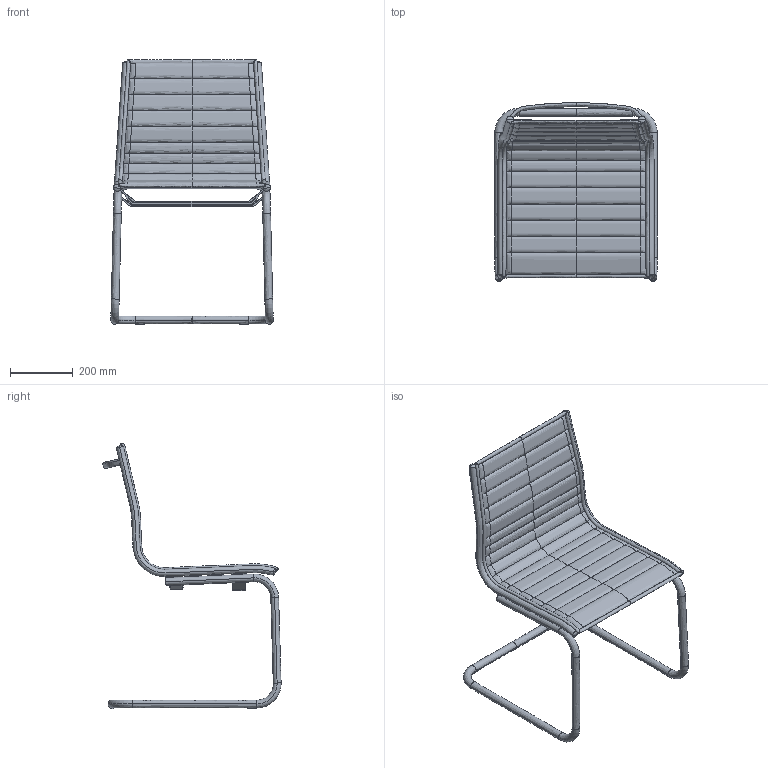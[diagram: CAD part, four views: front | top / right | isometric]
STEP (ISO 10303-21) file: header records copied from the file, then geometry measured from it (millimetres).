
FILE_DESCRIPTION(/* description */ (''),/* implementation_level */ '2;1');
FILE_NAME(/* name */ 'FLY724~1',/* time_stamp */ '2017-10-19T14:58:35+02:00',/* author */ (''),/* organization */ (''),/* preprocessor_version */ 'ST-DEVELOPER v15',/* originating_system */ '',/* authorisation */ '');
FILE_SCHEMA (('CONFIG_CONTROL_DESIGN'));
Length unit declared in the file: millimetre
Products named in the file (1): Document
Bounding box: 518.97 x 569.59 x 848.44 mm (x, y, z)
Volume: 1305122.3 mm3; surface area: 1415809.3 mm2
Topology: 13 solids, 18 shells, 260 faces, 613 edges, 376 vertices
Faces by surface type: bspline 198, plane 62
Entity records: 21490 total; most frequent: CARTESIAN_POINT 17818, ORIENTED_EDGE 1142, EDGE_CURVE 602, VERTEX_POINT 370, B_SPLINE_CURVE_WITH_KNOTS 353, EDGE_LOOP 262, ADVANCED_FACE 260, FACE_OUTER_BOUND 260
